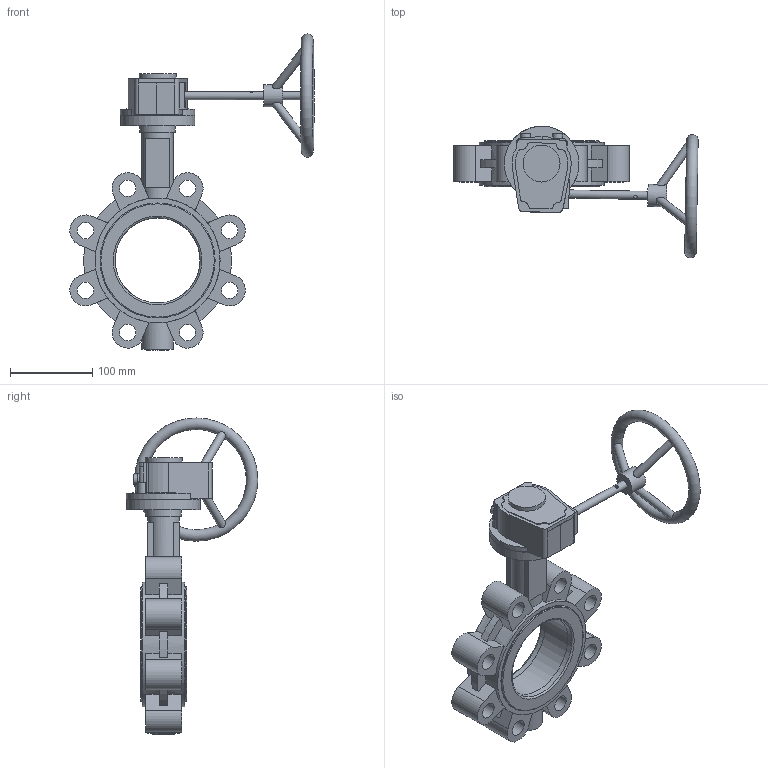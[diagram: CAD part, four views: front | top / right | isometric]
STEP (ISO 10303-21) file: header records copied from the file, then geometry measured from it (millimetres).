
FILE_DESCRIPTION (( 'STEP AP203' ), '1' );
FILE_NAME ('2502 LT型中线衬胶带销 手动头蝶阀 DN100 PN25 CD0309057.STEP', '2026-03-25T02:38:32', ( '' ), ( '' ), 'SwSTEP 2.0', 'SolidWorks 2018', '' );
FILE_SCHEMA (( 'CONFIG_CONTROL_DESIGN' ));
Length unit declared in the file: millimetre
Products named in the file (5): G12L忒雄芛 潠趙; 2502 LT型中线衬胶带销 手动头蝶阀 DN100 PN25 CD0309057; GALA-D100-01LC25-00; M22X1.5内六角螺塞; GALA-D100-04AZC-00
Assembly tree (4 placements, depth 2):
  2502 LT型中线衬胶带销 手动头蝶阀 DN100 PN25 CD0309057
    GALA-D100-01LC25-00
    GALA-D100-04AZC-00
    M22X1.5内六角螺塞
    G12L忒雄芛 潠趙
Bounding box: 297.25 x 160.16 x 384.61 mm (x, y, z)
Volume: 1502506 mm3; surface area: 283379.8 mm2
Topology: 5 solids, 10 shells, 298 faces, 773 edges, 507 vertices
Faces by surface type: plane 142, cylinder 128, cone 10, torus 10, bspline 6, sphere 2
Full cylindrical faces by diameter (mm): 4 x1, 10 x9, 12 x2, 20 x8, 22 x1, 27 x2, 29 x1, 31.6 x1, 34 x1, 38 x2, 43 x1, 45 x1, 90 x1, 91 x1, 103.42 x1, 113 x2, 140 x4, 152 x2
Entity records: 10525 total; most frequent: CARTESIAN_POINT 3116, ORIENTED_EDGE 1398, DIRECTION 1398, EDGE_CURVE 699, AXIS2_PLACEMENT_3D 533, VERTEX_POINT 493, EDGE_LOOP 406, FACE_OUTER_BOUND 347
